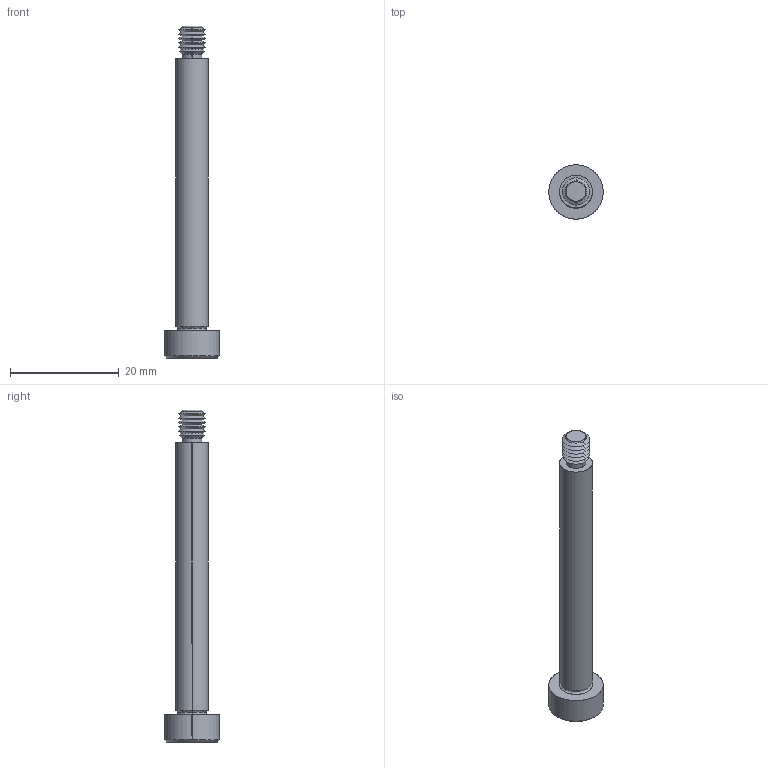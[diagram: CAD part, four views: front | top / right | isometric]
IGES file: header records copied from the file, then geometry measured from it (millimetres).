
Start section: SolidWorks IGES file using analytic representation for surfaces
Global section: file name: C:\Users\IanO\Documents\Temp Folder\GENERAL\SCREW REVISION\P0130_v2\P0130.T5_v2_20220106_IGES\P0130.060-050-T5.igs; native system: SolidWorks 2019; preprocessor: SolidWorks 2019; author: IanO; date: 220106.222705; units: millimetre
Bounding box: 10 x 10 x 61 mm (x, y, z)
Surface area: 1430 mm2 (no closed solid volume)
Topology: 0 solids, 0 shells, 64 faces, 504 edges, 502 vertices
Faces by surface type: revolution 44, bspline 20
